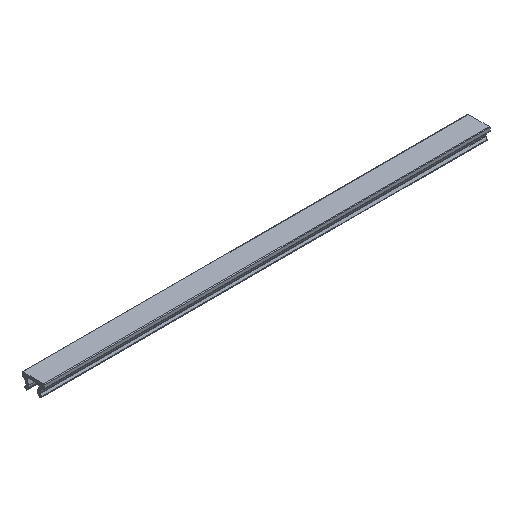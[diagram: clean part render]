
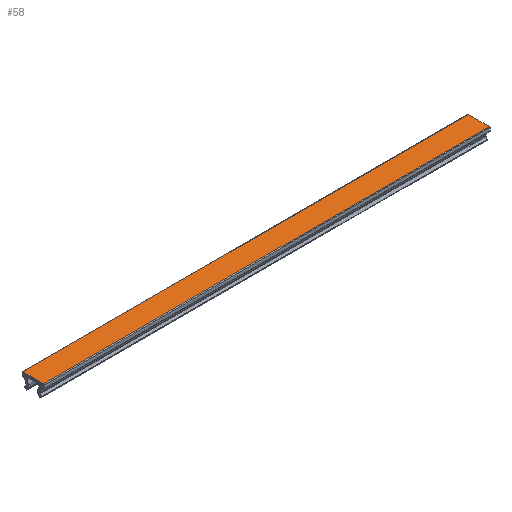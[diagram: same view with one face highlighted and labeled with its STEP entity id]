
A CAD part, isometric view. The second image highlights one B-rep face of the part: STEP entity #58.
In plain terms, the highlighted planar face has unit normal (0, 0, 1).
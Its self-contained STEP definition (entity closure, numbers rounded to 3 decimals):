
#58=ADVANCED_FACE('',(#143),#144,.F.);
#143=FACE_OUTER_BOUND('',#252,.T.);
#144=PLANE('',#253);
#252=EDGE_LOOP('',(#355,#356,#357,#358));
#253=AXIS2_PLACEMENT_3D('',#359,#360,#361);
#355=ORIENTED_EDGE('',*,*,#683,.T.);
#356=ORIENTED_EDGE('',*,*,#684,.F.);
#357=ORIENTED_EDGE('',*,*,#685,.F.);
#358=ORIENTED_EDGE('',*,*,#686,.T.);
#359=CARTESIAN_POINT('',(200.0,4.7,-0.4));
#360=DIRECTION('',(0.0,0.,-1.0));
#361=DIRECTION('',(0.0,1.0,0.));
#683=EDGE_CURVE('',#813,#814,#815,.T.);
#684=EDGE_CURVE('',#816,#814,#817,.T.);
#685=EDGE_CURVE('',#818,#816,#819,.T.);
#686=EDGE_CURVE('',#818,#813,#820,.T.);
#813=VERTEX_POINT('',#1007);
#814=VERTEX_POINT('',#1008);
#815=LINE('',#1009,#1010);
#816=VERTEX_POINT('',#1011);
#817=LINE('',#1012,#1013);
#818=VERTEX_POINT('',#1014);
#819=LINE('',#1015,#1016);
#820=LINE('',#1017,#1018);
#1007=CARTESIAN_POINT('',(0.0,4.7,-0.4));
#1008=CARTESIAN_POINT('',(0.0,-4.7,-0.4));
#1009=CARTESIAN_POINT('',(0.0,4.7,-0.4));
#1010=VECTOR('',#1264,1.0);
#1011=CARTESIAN_POINT('',(200.0,-4.7,-0.4));
#1012=CARTESIAN_POINT('',(200.0,-4.7,-0.4));
#1013=VECTOR('',#1265,1.0);
#1014=CARTESIAN_POINT('',(200.0,4.7,-0.4));
#1015=CARTESIAN_POINT('',(200.0,4.7,-0.4));
#1016=VECTOR('',#1266,1.0);
#1017=CARTESIAN_POINT('',(200.0,4.7,-0.4));
#1018=VECTOR('',#1267,1.0);
#1264=DIRECTION('',(0.0,-1.0,0.));
#1265=DIRECTION('',(-1.0,0.0,0.0));
#1266=DIRECTION('',(0.0,-1.0,0.));
#1267=DIRECTION('',(-1.0,0.0,0.0));
